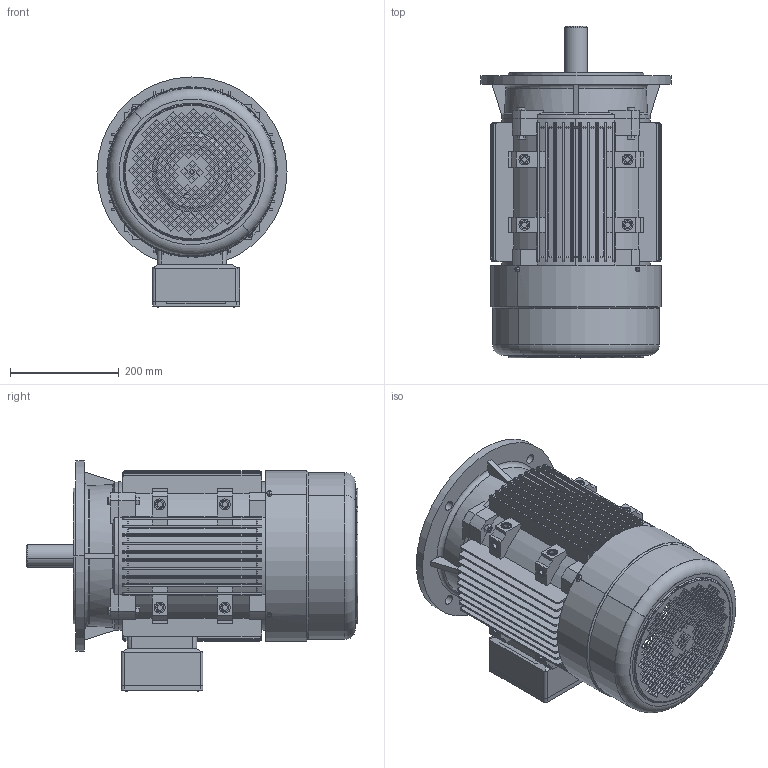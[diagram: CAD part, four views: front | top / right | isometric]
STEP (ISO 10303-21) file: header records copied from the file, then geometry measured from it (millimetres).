
FILE_DESCRIPTION (( 'STEP AP203' ), '1' );
FILE_NAME ('160M-B5.STEP', '2023-02-21T10:12:42', ( '' ), ( '' ), 'SwSTEP 2.0', 'SolidWorks 2018', '' );
FILE_SCHEMA (( 'CONFIG_CONTROL_DESIGN' ));
Length unit declared in the file: millimetre
Products named in the file (11): 160諉盄碟釱; 160 蹟邡; 112-蹟隊; 160M; 160粣芛; 160諉盄碟裔; 160B5裔; 160瑞欶; 160 蚐猾; 160M-B5; 160 蹟譫
Assembly tree (21 placements, depth 2):
  160M-B5
    160M
    160B5裔
    160 蹟邡  x4
    160 蹟譫  x4
    160粣芛
    160 蚐猾
    160諉盄碟釱
    160諉盄碟裔
    112-蹟隊  x6
    160瑞欶
Bounding box: 350 x 611 x 423.73 mm (x, y, z)
Volume: 5803703.5 mm3; surface area: 2051185.1 mm2
Topology: 21 solids, 21 shells, 2804 faces, 7931 edges, 5238 vertices
Faces by surface type: plane 2143, cylinder 508, cone 105, torus 36, sphere 12
Entity records: 87543 total; most frequent: CARTESIAN_POINT 17008, ORIENTED_EDGE 14798, DIRECTION 13148, EDGE_CURVE 7399, VECTOR 6036, LINE 6036, VERTEX_POINT 4906, AXIS2_PLACEMENT_3D 3556
